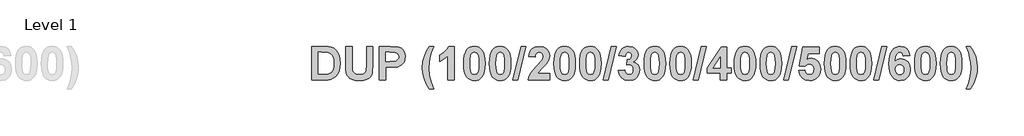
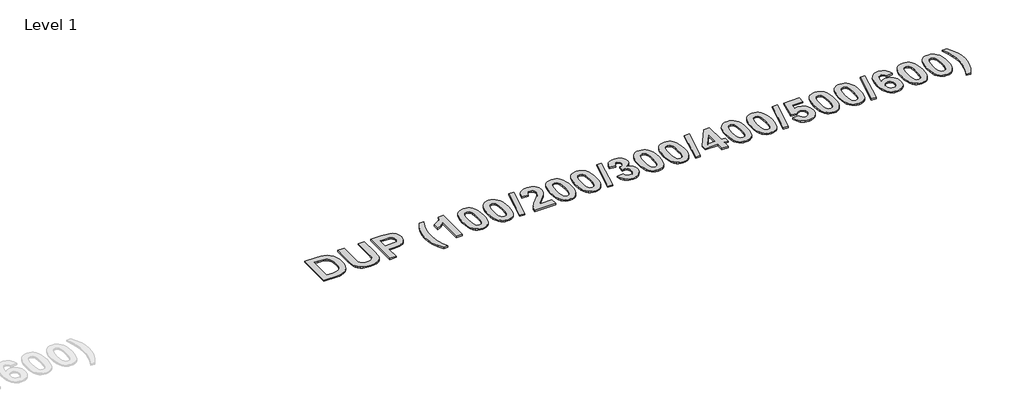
# One storey, part 32 of 42: 1 proxy.
"""IFC4 building model written with IfcOpenShell, lengths in millimetres."""

from ifc_helpers import new_model, si_unit, origin, origin_with_axes, place, context, project, spatial, polyline, outline, extrude, element, save

model = new_model("IFC4")

# Units and contexts
model_context = context("Model", 3, world=origin())
ifc_project = project(units=[si_unit("LENGTHUNIT", "METRE", prefix="MILLI")], contexts=[model_context])

# Site, building, storey
site = spatial("IfcSite", under=ifc_project)
building = spatial("IfcBuilding", under=site)
storey = spatial("IfcBuildingStorey", under=building, Name="Level 1", Elevation=0.0)

# Proxy
placement = place(None, origin())
element("IfcBuildingElementProxy", 1, Name="300mm Arial 2", ObjectType="300mm Arial 2", at=placement, inside=storey, context=model_context, shape_type="SweptSolid", body=[
    extrude(outline(polyline([(20006.8730509, 14842.68636), (20101.3204272, 14842.68636), (20129.4711857, 14841.4686025), (20150.0307284, 14837.8153299), (20170.9382018, 14828.6188883), (20188.6194086, 14814.314191), (20202.7659555, 14795.5575621), (20213.0694494, 14773.0053252), (20219.3559249, 14745.700671), (20221.4514168, 14712.6867899), (20219.4903527, 14683.397349), (20213.6071605, 14658.4095971), (20201.9356662, 14633.2320648), (20186.1522634, 14613.3683835), (20170.3688606, 14601.7601494), (20149.840948, 14592.9986212), (20129.8665615, 14588.9657878), (20104.103873, 14587.62151), (20006.8730509, 14587.62151), (20006.8730509, 14842.68636)]), holes=[polyline([(20055.4568319, 14798.1512275), (20055.4568319, 14632.1566425), (20096.8289578, 14632.1566425), (20130.3568275, 14634.5605275), (20152.719284, 14644.9668192), (20160.7928582, 14654.7009719), (20167.2374841, 14669.1638194), (20171.4600979, 14689.0591308), (20172.8676358, 14715.0906749), (20171.4600979, 14740.7584732), (20167.2374841, 14759.6890675), (20160.4923726, 14773.5430363), (20151.5173415, 14783.980958), (20140.0593502, 14791.2875032), (20125.8653582, 14795.7473425), (20080.3813237, 14798.1512275), (20055.4568319, 14798.1512275)])]), origin_with_axes(), (0.0, 0.0, 1.0), 10.0),
    extrude(outline(polyline([(20261.9379009, 14842.68636), (20310.5216819, 14842.68636), (20310.5216819, 14705.0955741), (20312.6092662, 14662.5847658), (20318.6980538, 14648.5489241), (20329.7527618, 14637.5653838), (20345.7733901, 14630.4723415), (20366.7599387, 14628.1079941), (20387.7227648, 14630.3379138), (20402.7865836, 14637.0276727), (20412.4891062, 14646.9674208), (20417.3680439, 14658.9473082), (20419.835189, 14702.1223479), (20419.835189, 14842.68636), (20468.4189699, 14842.68636), (20468.4189699, 14708.891182), (20464.1805411, 14644.0495473), (20458.1550136, 14626.5976585), (20448.5552887, 14612.0715508), (20435.2469385, 14600.3447039), (20418.0955354, 14591.2905976), (20396.1047322, 14585.5022956), (20368.2781819, 14583.5728616), (20335.6833991, 14585.676261), (20312.039925, 14591.9864591), (20294.8806144, 14601.6652592), (20281.7383221, 14613.8744646), (20272.5023429, 14627.6809882), (20267.0619716, 14642.1517433), (20263.2189186, 14669.2587096), (20261.9379009, 14706.8035977), (20261.9379009, 14842.68636)])), origin_with_axes(), (0.0, 0.0, 1.0), 10.0),
    extrude(outline(polyline([(20517.0027509, 14587.62151), (20517.0027509, 14842.68636), (20599.1776616, 14842.68636), (20660.0971682, 14838.8907521), (20680.1427224, 14829.8366458), (20696.6298941, 14814.0611505), (20707.6608796, 14792.1494225), (20711.3378747, 14764.6866179), (20709.1791227, 14743.2018958), (20702.7028668, 14725.4337064), (20692.8975464, 14711.2318069), (20680.7516011, 14700.4459544), (20653.707895, 14688.3948994), (20599.6204826, 14684.7890719), (20565.5865318, 14684.7890719), (20565.5865318, 14587.62151), (20517.0027509, 14587.62151)]), holes=[polyline([(20565.5865318, 14798.1512275), (20565.5865318, 14729.3242045), (20595.7616145, 14729.3242045), (20639.316215, 14733.1198123), (20656.5229708, 14745.0443471), (20661.196313, 14753.8295979), (20662.7540937, 14763.9274964), (20660.5637117, 14775.9943664), (20653.9925655, 14785.7522417), (20644.0844475, 14792.7424862), (20631.8831496, 14796.506464), (20592.2190472, 14798.1512275), (20565.5865318, 14798.1512275)])]), origin_with_axes(), (0.0, 0.0, 1.0), 10.0),
    extrude(outline(polyline([(20925.9162406, 14518.794487), (20893.5270533, 14518.794487), (20870.8562037, 14558.4664969), (20854.3374018, 14599.6725651), (20844.2553184, 14640.9735234), (20840.8946239, 14680.9302039), (20845.0065324, 14728.3278574), (20857.3422581, 14773.1002154), (20873.5368517, 14809.3799008), (20893.5270533, 14842.68636), (20925.9162406, 14842.68636), (20908.3536466, 14795.4468568), (20897.2910311, 14755.8301995), (20891.4315614, 14718.9495429), (20889.4784049, 14679.9180418), (20894.1596546, 14623.2685941), (20907.0014613, 14568.2006497), (20925.9162406, 14518.794487)])), origin_with_axes(), (0.0, 0.0, 1.0), 10.0),
    extrude(outline(polyline([(21079.7648802, 14587.62151), (21031.1810993, 14587.62151), (21031.1810993, 14769.9372088), (21003.125231, 14746.0565092), (20970.4513731, 14729.3242045), (20970.4513731, 14777.9079854), (20989.9196786, 14786.9937218), (21011.0011174, 14801.7254249), (21029.4572607, 14820.7430019), (21041.0496798, 14842.68636), (21079.7648802, 14842.68636), (21079.7648802, 14587.62151)])), origin_with_axes(), (0.0, 0.0, 1.0), 10.0),
    extrude(outline(polyline([(21233.6135199, 14842.68636), (21250.7451543, 14841.0415966), (21265.892002, 14836.1073063), (21279.0540631, 14827.8834892), (21290.2313376, 14816.3701453), (21300.886716, 14798.2421639), (21308.4977005, 14774.9822043), (21313.0642913, 14746.5902666), (21314.5864882, 14713.0663507), (21313.0563837, 14679.5740648), (21308.4660704, 14651.150497), (21300.8155483, 14627.7956472), (21290.1048173, 14609.5095155), (21278.9828954, 14598.1622294), (21265.8603719, 14590.0570251), (21250.7372467, 14585.1939025), (21233.6135199, 14583.5728616), (21216.3059433, 14585.3520528), (21200.7577891, 14590.6896264), (21186.9690574, 14599.5855824), (21174.939748, 14612.0399207), (21165.1838496, 14629.0608499), (21158.2153507, 14651.6565781), (21154.0342514, 14679.8271054), (21152.6405517, 14713.5724317), (21154.1706561, 14746.8986597), (21158.7609694, 14775.2036148), (21166.4114915, 14798.4872969), (21177.1222225, 14816.7497061), (21188.2441444, 14828.0969922), (21201.3666679, 14836.2021965), (21216.4897931, 14841.0653191), (21233.6135199, 14842.68636)]), holes=[polyline([(21233.6135199, 14798.1512275), (21217.4189263, 14792.8057464), (21211.0929131, 14785.3331433), (21206.4116634, 14773.6062965), (21202.5211653, 14749.4567413), (21201.2243326, 14713.0663507), (21202.37883, 14677.1583186), (21205.8423222, 14654.5823591), (21211.0691906, 14641.3293616), (21217.5138165, 14633.3902151), (21233.6135199, 14628.1079941), (21249.8081136, 14633.4534752), (21256.1341267, 14640.9260783), (21260.8153764, 14652.6529251), (21264.7058745, 14676.6759601), (21266.0027072, 14713.0663507), (21264.8482098, 14748.9348452), (21261.3847176, 14771.5187121), (21256.1578493, 14784.8112472), (21249.7132234, 14792.8057464), (21233.6135199, 14798.1512275)])]), origin_with_axes(), (0.0, 0.0, 1.0), 10.0),
    extrude(outline(polyline([(21427.9486437, 14842.68636), (21445.0802781, 14841.0415966), (21460.2271258, 14836.1073063), (21473.3891869, 14827.8834892), (21484.5664614, 14816.3701453), (21495.2218398, 14798.2421639), (21502.8328243, 14774.9822043), (21507.3994151, 14746.5902666), (21508.921612, 14713.0663507), (21507.3915075, 14679.5740648), (21502.8011943, 14651.150497), (21495.1506721, 14627.7956472), (21484.4399411, 14609.5095155), (21473.3180192, 14598.1622294), (21460.1954957, 14590.0570251), (21445.0723705, 14585.1939025), (21427.9486437, 14583.5728616), (21410.6410671, 14585.3520528), (21395.0929129, 14590.6896264), (21381.3041812, 14599.5855824), (21369.2748718, 14612.0399207), (21359.5189734, 14629.0608499), (21352.5504746, 14651.6565781), (21348.3693752, 14679.8271054), (21346.9756755, 14713.5724317), (21348.5057799, 14746.8986597), (21353.0960932, 14775.2036148), (21360.7466153, 14798.4872969), (21371.4573463, 14816.7497061), (21382.5792682, 14828.0969922), (21395.7017917, 14836.2021965), (21410.8249169, 14841.0653191), (21427.9486437, 14842.68636)]), holes=[polyline([(21427.9486437, 14798.1512275), (21411.7540501, 14792.8057464), (21405.4280369, 14785.3331433), (21400.7467872, 14773.6062965), (21396.8562891, 14749.4567413), (21395.5594564, 14713.0663507), (21396.7139538, 14677.1583186), (21400.177446, 14654.5823591), (21405.4043144, 14641.3293616), (21411.8489403, 14633.3902151), (21427.9486437, 14628.1079941), (21444.1432374, 14633.4534752), (21450.4692505, 14640.9260783), (21455.1505002, 14652.6529251), (21459.0409983, 14676.6759601), (21460.337831, 14713.0663507), (21459.1833336, 14748.9348452), (21455.7198414, 14771.5187121), (21450.4929731, 14784.8112472), (21444.0483472, 14792.8057464), (21427.9486437, 14798.1512275)])]), origin_with_axes(), (0.0, 0.0, 1.0), 10.0),
    extrude(outline(polyline([(21524.2305638, 14587.62151), (21584.96029, 14842.68636), (21622.2837675, 14842.68636), (21561.5540413, 14587.62151), (21524.2305638, 14587.62151)])), origin_with_axes(), (0.0, 0.0, 1.0), 10.0),
    extrude(outline(polyline([(21800.4242977, 14636.205291), (21800.4242977, 14587.62151), (21638.4783612, 14587.62151), (21643.6498769, 14612.1269034), (21653.9770934, 14635.2880191), (21673.1607282, 14661.469806), (21704.9014992, 14695.0372132), (21742.4780173, 14735.7767379), (21749.4998919, 14750.4847184), (21751.8405167, 14765.0029186), (21749.8715451, 14779.1494655), (21743.9646304, 14789.5794797), (21734.5942234, 14796.0082905), (21722.2347752, 14798.1512275), (21709.9623097, 14796.0399206), (21700.47329, 14789.7059999), (21694.0840167, 14778.4852341), (21691.1107905, 14761.7133918), (21642.5270096, 14766.141601), (21651.1303875, 14801.2905115), (21658.7532333, 14814.5296709), (21668.5901837, 14824.878633), (21693.2141899, 14838.2344283), (21723.3101974, 14842.68636), (21755.4463442, 14837.6967171), (21779.8647549, 14822.7277885), (21795.284412, 14800.3416095), (21800.4242977, 14773.1002154), (21794.794146, 14740.9640686), (21776.9547889, 14709.0177023), (21746.7480761, 14677.134596), (21719.0085085, 14649.4899186), (21709.8990496, 14636.205291), (21800.4242977, 14636.205291)])), origin_with_axes(), (0.0, 0.0, 1.0), 10.0),
    extrude(outline(polyline([(21913.7864532, 14842.68636), (21930.9180876, 14841.0415966), (21946.0649353, 14836.1073063), (21959.2269964, 14827.8834892), (21970.4042709, 14816.3701453), (21981.0596493, 14798.2421639), (21988.6706338, 14774.9822043), (21993.2372246, 14746.5902666), (21994.7594215, 14713.0663507), (21993.229317, 14679.5740648), (21988.6390038, 14651.150497), (21980.9884816, 14627.7956472), (21970.2777506, 14609.5095155), (21959.1558287, 14598.1622294), (21946.0333052, 14590.0570251), (21930.9101801, 14585.1939025), (21913.7864532, 14583.5728616), (21896.4788766, 14585.3520528), (21880.9307225, 14590.6896264), (21867.1419907, 14599.5855824), (21855.1126813, 14612.0399207), (21845.3567829, 14629.0608499), (21838.3882841, 14651.6565781), (21834.2071847, 14679.8271054), (21832.813485, 14713.5724317), (21834.3435894, 14746.8986597), (21838.9339027, 14775.2036148), (21846.5844248, 14798.4872969), (21857.2951558, 14816.7497061), (21868.4170777, 14828.0969922), (21881.5396012, 14836.2021965), (21896.6627264, 14841.0653191), (21913.7864532, 14842.68636)]), holes=[polyline([(21913.7864532, 14798.1512275), (21897.5918596, 14792.8057464), (21891.2658464, 14785.3331433), (21886.5845967, 14773.6062965), (21882.6940986, 14749.4567413), (21881.3972659, 14713.0663507), (21882.5517633, 14677.1583186), (21886.0152555, 14654.5823591), (21891.2421239, 14641.3293616), (21897.6867498, 14633.3902151), (21913.7864532, 14628.1079941), (21929.9810469, 14633.4534752), (21936.30706, 14640.9260783), (21940.9883097, 14652.6529251), (21944.8788078, 14676.6759601), (21946.1756405, 14713.0663507), (21945.0211431, 14748.9348452), (21941.5576509, 14771.5187121), (21936.3307826, 14784.8112472), (21929.8861567, 14792.8057464), (21913.7864532, 14798.1512275)])]), origin_with_axes(), (0.0, 0.0, 1.0), 10.0),
    extrude(outline(polyline([(22108.121577, 14842.68636), (22125.2532114, 14841.0415966), (22140.4000591, 14836.1073063), (22153.5621202, 14827.8834892), (22164.7393947, 14816.3701453), (22175.3947731, 14798.2421639), (22183.0057576, 14774.9822043), (22187.5723484, 14746.5902666), (22189.0945453, 14713.0663507), (22187.5644408, 14679.5740648), (22182.9741276, 14651.150497), (22175.3236054, 14627.7956472), (22164.6128744, 14609.5095155), (22153.4909525, 14598.1622294), (22140.368429, 14590.0570251), (22125.2453039, 14585.1939025), (22108.121577, 14583.5728616), (22090.8140004, 14585.3520528), (22075.2658463, 14590.6896264), (22061.4771145, 14599.5855824), (22049.4478051, 14612.0399207), (22039.6919067, 14629.0608499), (22032.7234079, 14651.6565781), (22028.5423085, 14679.8271054), (22027.1486088, 14713.5724317), (22028.6787132, 14746.8986597), (22033.2690265, 14775.2036148), (22040.9195486, 14798.4872969), (22051.6302796, 14816.7497061), (22062.7522015, 14828.0969922), (22075.874725, 14836.2021965), (22090.9978502, 14841.0653191), (22108.121577, 14842.68636)]), holes=[polyline([(22108.121577, 14798.1512275), (22091.9269834, 14792.8057464), (22085.6009702, 14785.3331433), (22080.9197205, 14773.6062965), (22077.0292224, 14749.4567413), (22075.7323897, 14713.0663507), (22076.8868871, 14677.1583186), (22080.3503793, 14654.5823591), (22085.5772477, 14641.3293616), (22092.0218736, 14633.3902151), (22108.121577, 14628.1079941), (22124.3161707, 14633.4534752), (22130.6421838, 14640.9260783), (22135.3234335, 14652.6529251), (22139.2139316, 14676.6759601), (22140.5107643, 14713.0663507), (22139.3562669, 14748.9348452), (22135.8927747, 14771.5187121), (22130.6659064, 14784.8112472), (22124.2212805, 14792.8057464), (22108.121577, 14798.1512275)])]), origin_with_axes(), (0.0, 0.0, 1.0), 10.0),
    extrude(outline(polyline([(22204.4034971, 14587.62151), (22265.1332233, 14842.68636), (22302.4567008, 14842.68636), (22241.7269746, 14587.62151), (22204.4034971, 14587.62151)])), origin_with_axes(), (0.0, 0.0, 1.0), 10.0),
    extrude(outline(polyline([(22318.6512945, 14658.9156782), (22367.2350754, 14664.5458298), (22370.9832382, 14648.9205774), (22378.1790782, 14637.4704936), (22388.0318436, 14630.448619), (22399.750783, 14628.1079941), (22412.3237341, 14630.7886422), (22422.7142107, 14638.8305864), (22429.6886402, 14651.4114451), (22432.01345, 14667.7088364), (22429.8863281, 14683.1284935), (22423.5049623, 14694.9739531), (22414.0554802, 14702.5177237), (22402.7240092, 14705.032314), (22383.4296691, 14701.4264865), (22387.6680979, 14741.4701497), (22401.4983441, 14743.2098033), (22411.6120576, 14749.4409262), (22417.803643, 14759.3095068), (22419.8675048, 14771.961533), (22418.3255391, 14782.7078479), (22413.699642, 14791.0344627), (22406.5117095, 14796.3720363), (22397.2836379, 14798.1512275), (22387.8974159, 14796.0873657), (22379.9819919, 14789.8957803), (22374.2174124, 14779.7346217), (22371.2837238, 14765.7620402), (22322.6999429, 14773.0369553), (22328.2589269, 14794.7747179), (22336.0794607, 14811.6572655), (22346.802053, 14824.5702399), (22361.0672126, 14834.3992828), (22378.0604654, 14840.6145907), (22396.9673372, 14842.68636), (22427.6168709, 14836.9455031), (22440.403325, 14829.7694319), (22451.4975705, 14819.7229323), (22464.2128569, 14799.7011007), (22468.4512857, 14777.212124), (22466.1778748, 14761.2666171), (22459.3576418, 14747.0212262), (22447.990587, 14734.4759514), (22432.0767102, 14723.6307926), (22451.9403914, 14716.0791144), (22467.3758635, 14702.7865793), (22477.2918891, 14684.9234997), (22480.597231, 14663.660188), (22474.7377613, 14632.8920416), (22457.1593523, 14607.0107403), (22444.7228058, 14596.7566684), (22430.8510451, 14589.4323313), (22398.801881, 14583.5728616), (22368.5398156, 14588.7839149), (22343.923717, 14604.4170749), (22326.7090537, 14628.4638324), (22318.6512945, 14658.9156782)])), origin_with_axes(), (0.0, 0.0, 1.0), 10.0),
    extrude(outline(polyline([(22593.9593865, 14842.68636), (22611.0910209, 14841.0415966), (22626.2378686, 14836.1073063), (22639.3999297, 14827.8834892), (22650.5772042, 14816.3701453), (22661.2325826, 14798.2421639), (22668.8435671, 14774.9822043), (22673.4101579, 14746.5902666), (22674.9323548, 14713.0663507), (22673.4022503, 14679.5740648), (22668.8119371, 14651.150497), (22661.1614149, 14627.7956472), (22650.4506839, 14609.5095155), (22639.328762, 14598.1622294), (22626.2062385, 14590.0570251), (22611.0831134, 14585.1939025), (22593.9593865, 14583.5728616), (22576.6518099, 14585.3520528), (22561.1036558, 14590.6896264), (22547.314924, 14599.5855824), (22535.2856146, 14612.0399207), (22525.5297162, 14629.0608499), (22518.5612174, 14651.6565781), (22514.380118, 14679.8271054), (22512.9864183, 14713.5724317), (22514.5165227, 14746.8986597), (22519.106836, 14775.2036148), (22526.7573581, 14798.4872969), (22537.4680891, 14816.7497061), (22548.590011, 14828.0969922), (22561.7125345, 14836.2021965), (22576.8356597, 14841.0653191), (22593.9593865, 14842.68636)]), holes=[polyline([(22593.9593865, 14798.1512275), (22577.7647929, 14792.8057464), (22571.4387797, 14785.3331433), (22566.75753, 14773.6062965), (22562.8670319, 14749.4567413), (22561.5701992, 14713.0663507), (22562.7246966, 14677.1583186), (22566.1881888, 14654.5823591), (22571.4150572, 14641.3293616), (22577.8596831, 14633.3902151), (22593.9593865, 14628.1079941), (22610.1539802, 14633.4534752), (22616.4799933, 14640.9260783), (22621.161243, 14652.6529251), (22625.0517411, 14676.6759601), (22626.3485738, 14713.0663507), (22625.1940764, 14748.9348452), (22621.7305842, 14771.5187121), (22616.5037159, 14784.8112472), (22610.05909, 14792.8057464), (22593.9593865, 14798.1512275)])]), origin_with_axes(), (0.0, 0.0, 1.0), 10.0),
    extrude(outline(polyline([(22788.2945103, 14842.68636), (22805.4261447, 14841.0415966), (22820.5729924, 14836.1073063), (22833.7350535, 14827.8834892), (22844.912328, 14816.3701453), (22855.5677064, 14798.2421639), (22863.1786909, 14774.9822043), (22867.7452817, 14746.5902666), (22869.2674786, 14713.0663507), (22867.7373741, 14679.5740648), (22863.1470609, 14651.150497), (22855.4965387, 14627.7956472), (22844.7858077, 14609.5095155), (22833.6638858, 14598.1622294), (22820.5413623, 14590.0570251), (22805.4182372, 14585.1939025), (22788.2945103, 14583.5728616), (22770.9869337, 14585.3520528), (22755.4387796, 14590.6896264), (22741.6500478, 14599.5855824), (22729.6207384, 14612.0399207), (22719.86484, 14629.0608499), (22712.8963412, 14651.6565781), (22708.7152418, 14679.8271054), (22707.3215421, 14713.5724317), (22708.8516465, 14746.8986597), (22713.4419598, 14775.2036148), (22721.0924819, 14798.4872969), (22731.8032129, 14816.7497061), (22742.9251348, 14828.0969922), (22756.0476583, 14836.2021965), (22771.1707835, 14841.0653191), (22788.2945103, 14842.68636)]), holes=[polyline([(22788.2945103, 14798.1512275), (22772.0999167, 14792.8057464), (22765.7739035, 14785.3331433), (22761.0926538, 14773.6062965), (22757.2021557, 14749.4567413), (22755.905323, 14713.0663507), (22757.0598204, 14677.1583186), (22760.5233126, 14654.5823591), (22765.750181, 14641.3293616), (22772.1948069, 14633.3902151), (22788.2945103, 14628.1079941), (22804.489104, 14633.4534752), (22810.8151171, 14640.9260783), (22815.4963668, 14652.6529251), (22819.3868649, 14676.6759601), (22820.6836976, 14713.0663507), (22819.5292002, 14748.9348452), (22816.065708, 14771.5187121), (22810.8388397, 14784.8112472), (22804.3942138, 14792.8057464), (22788.2945103, 14798.1512275)])]), origin_with_axes(), (0.0, 0.0, 1.0), 10.0),
    extrude(outline(polyline([(22884.5764304, 14587.62151), (22945.3061566, 14842.68636), (22982.6296341, 14842.68636), (22921.8999079, 14587.62151), (22884.5764304, 14587.62151)])), origin_with_axes(), (0.0, 0.0, 1.0), 10.0),
    extrude(outline(polyline([(23087.8944929, 14587.62151), (23087.8944929, 14640.2539394), (22990.726931, 14640.2539394), (22990.726931, 14680.5506431), (23094.3470263, 14838.6377116), (23136.4782738, 14838.6377116), (23136.4782738, 14680.7404235), (23168.8674611, 14680.7404235), (23168.8674611, 14640.2539394), (23136.4782738, 14640.2539394), (23136.4782738, 14587.62151), (23087.8944929, 14587.62151)]), holes=[polyline([(23087.8944929, 14680.7404235), (23087.8944929, 14763.6111957), (23033.6173001, 14680.7404235), (23087.8944929, 14680.7404235)])]), origin_with_axes(), (0.0, 0.0, 1.0), 10.0),
    extrude(outline(polyline([(23274.1323198, 14842.68636), (23291.2639542, 14841.0415966), (23306.4108019, 14836.1073063), (23319.572863, 14827.8834892), (23330.7501375, 14816.3701453), (23341.4055159, 14798.2421639), (23349.0165004, 14774.9822043), (23353.5830912, 14746.5902666), (23355.1052881, 14713.0663507), (23353.5751837, 14679.5740648), (23348.9848704, 14651.150497), (23341.3343482, 14627.7956472), (23330.6236172, 14609.5095155), (23319.5016954, 14598.1622294), (23306.3791718, 14590.0570251), (23291.2560467, 14585.1939025), (23274.1323198, 14583.5728616), (23256.8247432, 14585.3520528), (23241.2765891, 14590.6896264), (23227.4878573, 14599.5855824), (23215.4585479, 14612.0399207), (23205.7026495, 14629.0608499), (23198.7341507, 14651.6565781), (23194.5530514, 14679.8271054), (23193.1593516, 14713.5724317), (23194.689456, 14746.8986597), (23199.2797693, 14775.2036148), (23206.9302914, 14798.4872969), (23217.6410224, 14816.7497061), (23228.7629443, 14828.0969922), (23241.8854678, 14836.2021965), (23257.008593, 14841.0653191), (23274.1323198, 14842.68636)]), holes=[polyline([(23274.1323198, 14798.1512275), (23257.9377262, 14792.8057464), (23251.611713, 14785.3331433), (23246.9304633, 14773.6062965), (23243.0399652, 14749.4567413), (23241.7431325, 14713.0663507), (23242.8976299, 14677.1583186), (23246.3611221, 14654.5823591), (23251.5879905, 14641.3293616), (23258.0326164, 14633.3902151), (23274.1323198, 14628.1079941), (23290.3269135, 14633.4534752), (23296.6529266, 14640.9260783), (23301.3341764, 14652.6529251), (23305.2246744, 14676.6759601), (23306.5215071, 14713.0663507), (23305.3670097, 14748.9348452), (23301.9035175, 14771.5187121), (23296.6766492, 14784.8112472), (23290.2320233, 14792.8057464), (23274.1323198, 14798.1512275)])]), origin_with_axes(), (0.0, 0.0, 1.0), 10.0),
    extrude(outline(polyline([(23468.4674436, 14842.68636), (23485.599078, 14841.0415966), (23500.7459257, 14836.1073063), (23513.9079868, 14827.8834892), (23525.0852613, 14816.3701453), (23535.7406397, 14798.2421639), (23543.3516242, 14774.9822043), (23547.918215, 14746.5902666), (23549.4404119, 14713.0663507), (23547.9103075, 14679.5740648), (23543.3199942, 14651.150497), (23535.669472, 14627.7956472), (23524.958741, 14609.5095155), (23513.8368192, 14598.1622294), (23500.7142956, 14590.0570251), (23485.5911705, 14585.1939025), (23468.4674436, 14583.5728616), (23451.159867, 14585.3520528), (23435.6117129, 14590.6896264), (23421.8229811, 14599.5855824), (23409.7936717, 14612.0399207), (23400.0377733, 14629.0608499), (23393.0692745, 14651.6565781), (23388.8881752, 14679.8271054), (23387.4944754, 14713.5724317), (23389.0245798, 14746.8986597), (23393.6148931, 14775.2036148), (23401.2654152, 14798.4872969), (23411.9761462, 14816.7497061), (23423.0980681, 14828.0969922), (23436.2205916, 14836.2021965), (23451.3437168, 14841.0653191), (23468.4674436, 14842.68636)]), holes=[polyline([(23468.4674436, 14798.1512275), (23452.27285, 14792.8057464), (23445.9468368, 14785.3331433), (23441.2655871, 14773.6062965), (23437.375089, 14749.4567413), (23436.0782563, 14713.0663507), (23437.2327537, 14677.1583186), (23440.6962459, 14654.5823591), (23445.9231143, 14641.3293616), (23452.3677402, 14633.3902151), (23468.4674436, 14628.1079941), (23484.6620373, 14633.4534752), (23490.9880504, 14640.9260783), (23495.6693002, 14652.6529251), (23499.5597982, 14676.6759601), (23500.8566309, 14713.0663507), (23499.7021335, 14748.9348452), (23496.2386413, 14771.5187121), (23491.011773, 14784.8112472), (23484.5671471, 14792.8057464), (23468.4674436, 14798.1512275)])]), origin_with_axes(), (0.0, 0.0, 1.0), 10.0),
    extrude(outline(polyline([(23564.7493637, 14587.62151), (23625.4790899, 14842.68636), (23662.8025674, 14842.68636), (23602.0728412, 14587.62151), (23564.7493637, 14587.62151)])), origin_with_axes(), (0.0, 0.0, 1.0), 10.0),
    extrude(outline(polyline([(23678.9971611, 14659.4217592), (23723.5322936, 14664.5458298), (23727.6758322, 14649.4741035), (23735.9312794, 14637.9133145), (23747.0334325, 14630.5593242), (23759.7170888, 14628.1079941), (23773.9110808, 14630.709567), (23785.7486329, 14638.5142858), (23793.743132, 14651.5537804), (23796.407965, 14669.8596809), (23793.9329124, 14687.0189915), (23786.5077545, 14699.275642), (23775.1130233, 14706.6296323), (23760.7292509, 14709.0809624), (23741.9093618, 14704.0201519), (23725.177057, 14688.8377203), (23683.0458095, 14695.1004733), (23711.3863484, 14838.6377116), (23832.8458008, 14838.6377116), (23832.8458008, 14790.0539306), (23750.67089, 14790.0539306), (23740.8655696, 14743.6842543), (23756.3484868, 14751.1331348), (23772.1793347, 14753.6160949), (23800.2984631, 14747.8673305), (23823.799602, 14730.6210371), (23839.69371, 14704.2020247), (23844.991746, 14670.9351031), (23840.5793518, 14642.009408), (23827.3421693, 14616.3416097), (23814.1247556, 14602.0052824), (23798.5746245, 14591.7650486), (23780.6917761, 14585.6209084), (23760.4762104, 14583.5728616), (23729.4708385, 14588.7127473), (23704.7756646, 14604.1324043), (23687.5610014, 14628.2345144), (23678.9971611, 14659.4217592)])), origin_with_axes(), (0.0, 0.0, 1.0), 10.0),
    extrude(outline(polyline([(23954.3052531, 14842.68636), (23971.4368875, 14841.0415966), (23986.5837352, 14836.1073063), (23999.7457963, 14827.8834892), (24010.9230708, 14816.3701453), (24021.5784492, 14798.2421639), (24029.1894337, 14774.9822043), (24033.7560245, 14746.5902666), (24035.2782214, 14713.0663507), (24033.748117, 14679.5740648), (24029.1578037, 14651.150497), (24021.5072815, 14627.7956472), (24010.7965505, 14609.5095155), (23999.6746287, 14598.1622294), (23986.5521051, 14590.0570251), (23971.42898, 14585.1939025), (23954.3052531, 14583.5728616), (23936.9976765, 14585.3520528), (23921.4495224, 14590.6896264), (23907.6607906, 14599.5855824), (23895.6314812, 14612.0399207), (23885.8755828, 14629.0608499), (23878.907084, 14651.6565781), (23874.7259847, 14679.8271054), (23873.3322849, 14713.5724317), (23874.8623893, 14746.8986597), (23879.4527026, 14775.2036148), (23887.1032247, 14798.4872969), (23897.8139558, 14816.7497061), (23908.9358776, 14828.0969922), (23922.0584011, 14836.2021965), (23937.1815263, 14841.0653191), (23954.3052531, 14842.68636)]), holes=[polyline([(23954.3052531, 14798.1512275), (23938.1106595, 14792.8057464), (23931.7846463, 14785.3331433), (23927.1033966, 14773.6062965), (23923.2128985, 14749.4567413), (23921.9160658, 14713.0663507), (23923.0705632, 14677.1583186), (23926.5340554, 14654.5823591), (23931.7609238, 14641.3293616), (23938.2055497, 14633.3902151), (23954.3052531, 14628.1079941), (23970.4998468, 14633.4534752), (23976.8258599, 14640.9260783), (23981.5071097, 14652.6529251), (23985.3976077, 14676.6759601), (23986.6944404, 14713.0663507), (23985.539943, 14748.9348452), (23982.0764508, 14771.5187121), (23976.8495825, 14784.8112472), (23970.4049566, 14792.8057464), (23954.3052531, 14798.1512275)])]), origin_with_axes(), (0.0, 0.0, 1.0), 10.0),
    extrude(outline(polyline([(24148.6403769, 14842.68636), (24165.7720113, 14841.0415966), (24180.918859, 14836.1073063), (24194.0809201, 14827.8834892), (24205.2581946, 14816.3701453), (24215.913573, 14798.2421639), (24223.5245575, 14774.9822043), (24228.0911483, 14746.5902666), (24229.6133452, 14713.0663507), (24228.0832408, 14679.5740648), (24223.4929275, 14651.150497), (24215.8424053, 14627.7956472), (24205.1316743, 14609.5095155), (24194.0097525, 14598.1622294), (24180.8872289, 14590.0570251), (24165.7641038, 14585.1939025), (24148.6403769, 14583.5728616), (24131.3328003, 14585.3520528), (24115.7846462, 14590.6896264), (24101.9959144, 14599.5855824), (24089.966605, 14612.0399207), (24080.2107066, 14629.0608499), (24073.2422078, 14651.6565781), (24069.0611085, 14679.8271054), (24067.6674087, 14713.5724317), (24069.1975131, 14746.8986597), (24073.7878264, 14775.2036148), (24081.4383485, 14798.4872969), (24092.1490796, 14816.7497061), (24103.2710014, 14828.0969922), (24116.3935249, 14836.2021965), (24131.5166501, 14841.0653191), (24148.6403769, 14842.68636)]), holes=[polyline([(24148.6403769, 14798.1512275), (24132.4457833, 14792.8057464), (24126.1197701, 14785.3331433), (24121.4385204, 14773.6062965), (24117.5480223, 14749.4567413), (24116.2511896, 14713.0663507), (24117.405687, 14677.1583186), (24120.8691792, 14654.5823591), (24126.0960476, 14641.3293616), (24132.5406735, 14633.3902151), (24148.6403769, 14628.1079941), (24164.8349706, 14633.4534752), (24171.1609837, 14640.9260783), (24175.8422335, 14652.6529251), (24179.7327315, 14676.6759601), (24181.0295642, 14713.0663507), (24179.8750668, 14748.9348452), (24176.4115746, 14771.5187121), (24171.1847063, 14784.8112472), (24164.7400804, 14792.8057464), (24148.6403769, 14798.1512275)])]), origin_with_axes(), (0.0, 0.0, 1.0), 10.0),
    extrude(outline(polyline([(24244.922297, 14587.62151), (24305.6520232, 14842.68636), (24342.9755007, 14842.68636), (24282.2457745, 14587.62151), (24244.922297, 14587.62151)])), origin_with_axes(), (0.0, 0.0, 1.0), 10.0),
    extrude(outline(polyline([(24517.0673825, 14774.9980194), (24468.4836015, 14769.8106886), (24465.5103753, 14782.4073622), (24459.8802236, 14791.2242431), (24451.877817, 14796.4194814), (24441.7878261, 14798.1512275), (24428.1868978, 14794.790533), (24416.8633343, 14784.7084495), (24408.560442, 14763.8721437), (24404.0215276, 14728.2487822), (24424.0433592, 14744.2377804), (24448.4301399, 14749.5674465), (24476.2566902, 14743.8740347), (24499.7657365, 14726.7937992), (24515.7784573, 14700.71481), (24521.1160309, 14668.0251371), (24515.6598446, 14633.587903), (24508.8396116, 14619.1982), (24499.2912855, 14606.6944396), (24487.6000225, 14596.5787492), (24474.3509787, 14589.3532561), (24443.1795489, 14583.5728616), (24425.648585, 14585.4390355), (24409.7465695, 14591.0375571), (24395.4735023, 14600.3684265), (24382.8293835, 14613.4316436), (24372.4784445, 14630.7451509), (24365.0849167, 14652.8268905), (24360.6488, 14679.6768625), (24359.1700944, 14711.295067), (24360.714037, 14743.7475144), (24365.3458647, 14771.3289317), (24373.0655776, 14794.0393189), (24383.8731757, 14811.878676), (24397.1479189, 14825.3570377), (24412.2690672, 14834.984439), (24429.2366206, 14840.7608797), (24448.0505791, 14842.68636), (24473.3704467, 14838.353041), (24493.9141744, 14825.353084), (24508.7803053, 14804.0976798), (24517.0673825, 14774.9980194)]), holes=[polyline([(24407.7538753, 14669.1005593), (24410.3791708, 14651.6803006), (24418.2550572, 14638.7673263), (24429.4995455, 14630.7728272), (24442.230647, 14628.1079941), (24454.1235517, 14630.2904687), (24463.8656119, 14636.8378923), (24470.3655904, 14648.3670512), (24472.5322499, 14665.4947318), (24470.1995326, 14683.2471062), (24463.2013805, 14695.5116642), (24452.7081062, 14702.6521515), (24439.8900221, 14705.032314), (24427.4514988, 14702.7549492), (24417.0847447, 14695.922855), (24410.0865927, 14684.6625516), (24407.7538753, 14669.1005593)])]), origin_with_axes(), (0.0, 0.0, 1.0), 10.0),
    extrude(outline(polyline([(24634.4781864, 14842.68636), (24651.6098208, 14841.0415966), (24666.7566685, 14836.1073063), (24679.9187296, 14827.8834892), (24691.0960041, 14816.3701453), (24701.7513825, 14798.2421639), (24709.362367, 14774.9822043), (24713.9289578, 14746.5902666), (24715.4511547, 14713.0663507), (24713.9210503, 14679.5740648), (24709.330737, 14651.150497), (24701.6802148, 14627.7956472), (24690.9694838, 14609.5095155), (24679.847562, 14598.1622294), (24666.7250384, 14590.0570251), (24651.6019133, 14585.1939025), (24634.4781864, 14583.5728616), (24617.1706099, 14585.3520528), (24601.6224557, 14590.6896264), (24587.8337239, 14599.5855824), (24575.8044145, 14612.0399207), (24566.0485161, 14629.0608499), (24559.0800173, 14651.6565781), (24554.898918, 14679.8271054), (24553.5052182, 14713.5724317), (24555.0353226, 14746.8986597), (24559.6256359, 14775.2036148), (24567.2761581, 14798.4872969), (24577.9868891, 14816.7497061), (24589.1088109, 14828.0969922), (24602.2313344, 14836.2021965), (24617.3544596, 14841.0653191), (24634.4781864, 14842.68636)]), holes=[polyline([(24634.4781864, 14798.1512275), (24618.2835928, 14792.8057464), (24611.9575796, 14785.3331433), (24607.2763299, 14773.6062965), (24603.3858318, 14749.4567413), (24602.0889991, 14713.0663507), (24603.2434965, 14677.1583186), (24606.7069887, 14654.5823591), (24611.9338571, 14641.3293616), (24618.378483, 14633.3902151), (24634.4781864, 14628.1079941), (24650.6727801, 14633.4534752), (24656.9987932, 14640.9260783), (24661.680043, 14652.6529251), (24665.570541, 14676.6759601), (24666.8673737, 14713.0663507), (24665.7128763, 14748.9348452), (24662.2493841, 14771.5187121), (24657.0225158, 14784.8112472), (24650.5778899, 14792.8057464), (24634.4781864, 14798.1512275)])]), origin_with_axes(), (0.0, 0.0, 1.0), 10.0),
    extrude(outline(polyline([(24828.8133102, 14842.68636), (24845.9449446, 14841.0415966), (24861.0917923, 14836.1073063), (24874.2538534, 14827.8834892), (24885.4311279, 14816.3701453), (24896.0865063, 14798.2421639), (24903.6974908, 14774.9822043), (24908.2640816, 14746.5902666), (24909.7862785, 14713.0663507), (24908.2561741, 14679.5740648), (24903.6658608, 14651.150497), (24896.0153386, 14627.7956472), (24885.3046076, 14609.5095155), (24874.1826858, 14598.1622294), (24861.0601622, 14590.0570251), (24845.9370371, 14585.1939025), (24828.8133102, 14583.5728616), (24811.5057337, 14585.3520528), (24795.9575795, 14590.6896264), (24782.1688477, 14599.5855824), (24770.1395383, 14612.0399207), (24760.3836399, 14629.0608499), (24753.4151411, 14651.6565781), (24749.2340418, 14679.8271054), (24747.840342, 14713.5724317), (24749.3704464, 14746.8986597), (24753.9607597, 14775.2036148), (24761.6112819, 14798.4872969), (24772.3220129, 14816.7497061), (24783.4439347, 14828.0969922), (24796.5664582, 14836.2021965), (24811.6895834, 14841.0653191), (24828.8133102, 14842.68636)]), holes=[polyline([(24828.8133102, 14798.1512275), (24812.6187166, 14792.8057464), (24806.2927034, 14785.3331433), (24801.6114537, 14773.6062965), (24797.7209556, 14749.4567413), (24796.4241229, 14713.0663507), (24797.5786203, 14677.1583186), (24801.0421125, 14654.5823591), (24806.2689809, 14641.3293616), (24812.7136068, 14633.3902151), (24828.8133102, 14628.1079941), (24845.0079039, 14633.4534752), (24851.333917, 14640.9260783), (24856.0151668, 14652.6529251), (24859.9056648, 14676.6759601), (24861.2024975, 14713.0663507), (24860.0480001, 14748.9348452), (24856.5845079, 14771.5187121), (24851.3576396, 14784.8112472), (24844.9130137, 14792.8057464), (24828.8133102, 14798.1512275)])]), origin_with_axes(), (0.0, 0.0, 1.0), 10.0),
    extrude(outline(polyline([(24942.1754658, 14518.794487), (24960.1729732, 14564.7846026), (24969.8517733, 14601.6968893), (24976.462457, 14641.3926217), (24978.6133015, 14679.9180418), (24976.6680525, 14718.9495429), (24970.8323053, 14755.8301995), (24959.7775974, 14795.4468568), (24942.1754658, 14842.68636), (24974.5646531, 14842.68636), (24996.7610517, 14805.3470674), (25013.3747437, 14765.8253003), (25023.7414978, 14724.9276253), (25027.1970825, 14683.4606092), (25024.4294517, 14646.9595133), (25016.1265595, 14607.9280122), (24999.4100697, 14563.060764), (24974.5646531, 14518.794487), (24942.1754658, 14518.794487)])), origin_with_axes(), (0.0, 0.0, 1.0), 10.0),
])

save(model, "model.ifc")
